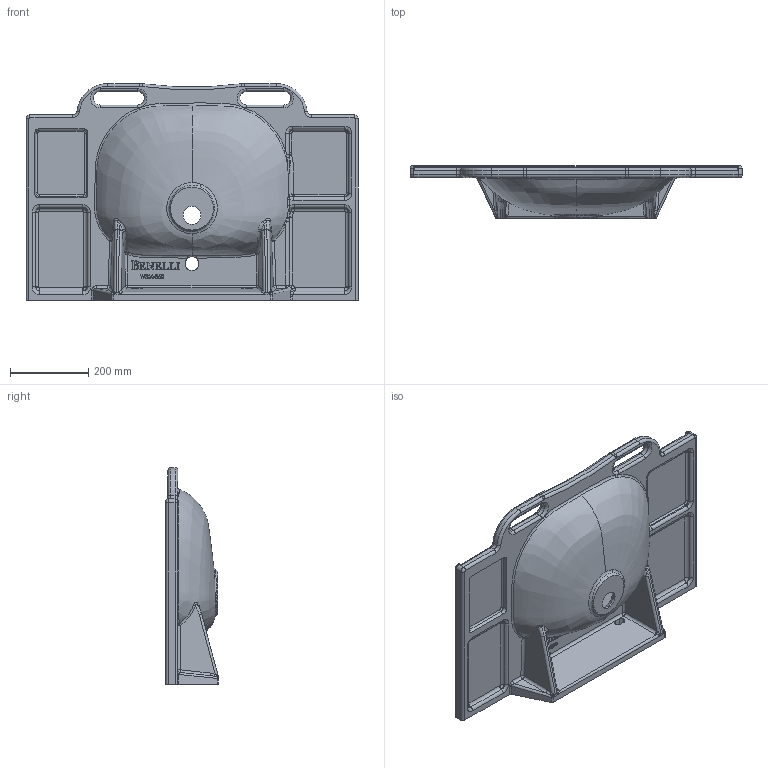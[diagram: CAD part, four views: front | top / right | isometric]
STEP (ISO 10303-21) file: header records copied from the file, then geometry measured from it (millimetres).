
FILE_DESCRIPTION (( 'STEP AP214' ), '1' );
FILE_NAME ('15.Benelli-Care-Resin-Washbasin_WBM-850.STEP', '2020-06-03T09:02:07', ( '' ), ( '' ), 'SwSTEP 2.0', 'SolidWorks 2020', '' );
FILE_SCHEMA (( 'AUTOMOTIVE_DESIGN' ));
Products named in the file (1): 15.Benelli-Care-Resin-Washbasin_WBM-850
Bounding box: 850 x 135 x 555 mm (x, y, z)
Volume: 9455517.6 mm3; surface area: 1220434.5 mm2
Topology: 1 solids, 1 shells, 1137 faces, 3145 edges, 2021 vertices
Faces by surface type: cylinder 704, bspline 194, plane 191, torus 29, sphere 15, cone 4
Entity records: 92312 total; most frequent: CARTESIAN_POINT 63542, ORIENTED_EDGE 6274, DIRECTION 6120, EDGE_CURVE 3137, AXIS2_PLACEMENT_3D 2449, VERTEX_POINT 2021, CIRCLE 1505, LINE 1222
